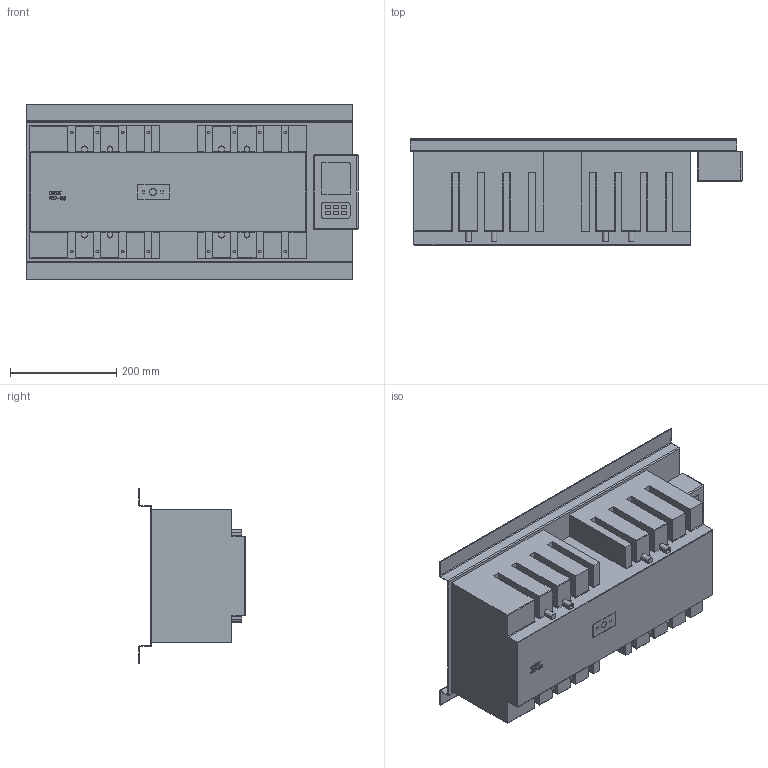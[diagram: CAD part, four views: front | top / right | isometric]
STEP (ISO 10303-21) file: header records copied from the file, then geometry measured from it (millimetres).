
FILE_DESCRIPTION(/* description */ ('','CAx-IF Rec.Pracs.---Representation and Presentation of Product Manufacturing Information (PMI)---3.8---2014-02-18'),/* implementation_level */ '2;1');
FILE_NAME(/* name */ 'C:\Users\ILYA\Desktop\NZ7\NZ7-400(4P)\NZ7-400(4P).stp',/* time_stamp */ '2017-08-16T21:53:18+03:00',/* author */ ('ILYA'),/* organization */ (''),/* preprocessor_version */ 'ST-DEVELOPER v16.1',/* originating_system */ 'Autodesk Inventor 2016',/* authorisation */ '');
FILE_SCHEMA (('AP242_MANAGED_MODEL_BASED_3D_ENGINEERING_MIM_LF { 1 0 10303 442 1 1 4 }'));
Length unit declared in the file: millimetre
Products named in the file (1): NZ7-400(4P)
Bounding box: 625 x 200 x 330 mm (x, y, z)
Volume: 20254340.7 mm3; surface area: 965780.9 mm2
Topology: 1 solids, 1 shells, 517 faces, 1343 edges, 876 vertices
Faces by surface type: plane 323, cylinder 150, bspline 40, sphere 4
Full cylindrical faces by diameter (mm): 5 x16, 13 x1
Entity records: 16048 total; most frequent: CARTESIAN_POINT 3363, ORIENTED_EDGE 2652, DIRECTION 2466, EDGE_CURVE 1326, LINE 982, VECTOR 982, VERTEX_POINT 876, AXIS2_PLACEMENT_3D 742
